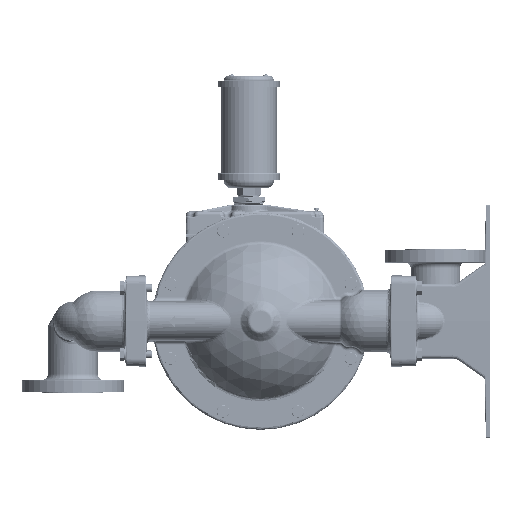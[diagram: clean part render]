
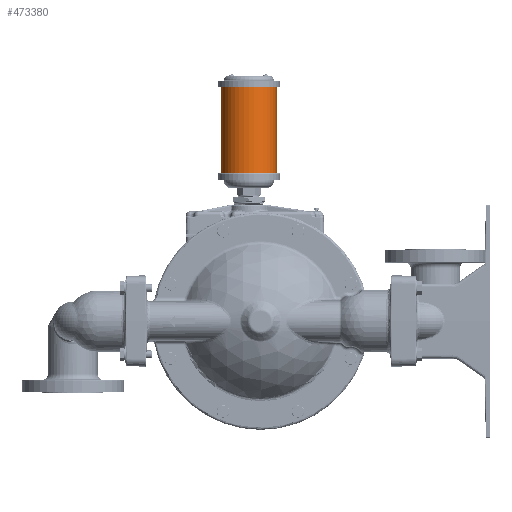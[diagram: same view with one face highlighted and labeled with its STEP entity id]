
A CAD part, left-side view. The second image highlights one B-rep face of the part: STEP entity #473380.
In plain terms, the highlighted cylindrical face has radius 45.339 mm (diameter 90.678 mm), a partial arc.
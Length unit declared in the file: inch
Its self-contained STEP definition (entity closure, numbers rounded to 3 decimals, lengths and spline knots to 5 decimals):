
#22772 = FACE_OUTER_BOUND ( 'NONE', #481698, .T. ) ;
#30388 = EDGE_CURVE ( 'NONE', #377283, #497390, #497875, .T. ) ;
#37826 = EDGE_CURVE ( 'NONE', #497390, #188925, #152384, .T. ) ;
#40445 = CARTESIAN_POINT ( 'NONE',  ( 0., -1.035, 9.46 ) ) ;
#43352 = LINE ( 'NONE', #40445, #319977 ) ;
#48835 = CARTESIAN_POINT ( 'NONE',  ( 0., 2.535, 9.46 ) ) ;
#108048 = DIRECTION ( 'NONE',  ( 0., 0., 1. ) ) ;
#129878 = ORIENTED_EDGE ( 'NONE', *, *, #268876, .T. ) ;
#152384 = CIRCLE ( 'NONE', #482549, 1.785 ) ;
#181691 = AXIS2_PLACEMENT_3D ( 'NONE', #433283, #300322, #211698 ) ;
#188925 = VERTEX_POINT ( 'NONE', #270787 ) ;
#200003 = AXIS2_PLACEMENT_3D ( 'NONE', #506371, #237574, #509319 ) ;
#205458 = DIRECTION ( 'NONE',  ( 0., 1., 0. ) ) ;
#211698 = DIRECTION ( 'NONE',  ( 0., -1., 0. ) ) ;
#223561 = DIRECTION ( 'NONE',  ( 0., 0., 1. ) ) ;
#237574 = DIRECTION ( 'NONE',  ( 0., 0., 1. ) ) ;
#268876 = EDGE_CURVE ( 'NONE', #447889, #188925, #43352, .T. ) ;
#270787 = CARTESIAN_POINT ( 'NONE',  ( 0., -1.035, 14.96 ) ) ;
#300322 = DIRECTION ( 'NONE',  ( 0., 0., -1. ) ) ;
#312279 = ORIENTED_EDGE ( 'NONE', *, *, #30388, .F. ) ;
#319977 = VECTOR ( 'NONE', #223561, 39.37008 ) ;
#332584 = CARTESIAN_POINT ( 'NONE',  ( 0., 0.75, 14.96 ) ) ;
#377283 = VERTEX_POINT ( 'NONE', #460510 ) ;
#381849 = ORIENTED_EDGE ( 'NONE', *, *, #447402, .T. ) ;
#386069 = CYLINDRICAL_SURFACE ( 'NONE', #181691, 1.785 ) ;
#422890 = CARTESIAN_POINT ( 'NONE',  ( 0., -1.035, 9.46 ) ) ;
#433283 = CARTESIAN_POINT ( 'NONE',  ( 0., 0.75, 16.069 ) ) ;
#444828 = DIRECTION ( 'NONE',  ( 0., 0., 1. ) ) ;
#447402 = EDGE_CURVE ( 'NONE', #377283, #447889, #501872, .T. ) ;
#447889 = VERTEX_POINT ( 'NONE', #422890 ) ;
#450834 = ORIENTED_EDGE ( 'NONE', *, *, #37826, .F. ) ;
#460510 = CARTESIAN_POINT ( 'NONE',  ( 0., 2.535, 9.46 ) ) ;
#467516 = VECTOR ( 'NONE', #444828, 39.37008 ) ;
#473380 = ADVANCED_FACE ( 'NONE', ( #22772 ), #386069, .T. ) ;
#481698 = EDGE_LOOP ( 'NONE', ( #381849, #129878, #450834, #312279 ) ) ;
#482549 = AXIS2_PLACEMENT_3D ( 'NONE', #332584, #108048, #205458 ) ;
#497390 = VERTEX_POINT ( 'NONE', #510172 ) ;
#497875 = LINE ( 'NONE', #48835, #467516 ) ;
#501872 = CIRCLE ( 'NONE', #200003, 1.785 ) ;
#506371 = CARTESIAN_POINT ( 'NONE',  ( 0., 0.75, 9.46 ) ) ;
#509319 = DIRECTION ( 'NONE',  ( 0., 1., 0. ) ) ;
#510172 = CARTESIAN_POINT ( 'NONE',  ( 0., 2.535, 14.96 ) ) ;
